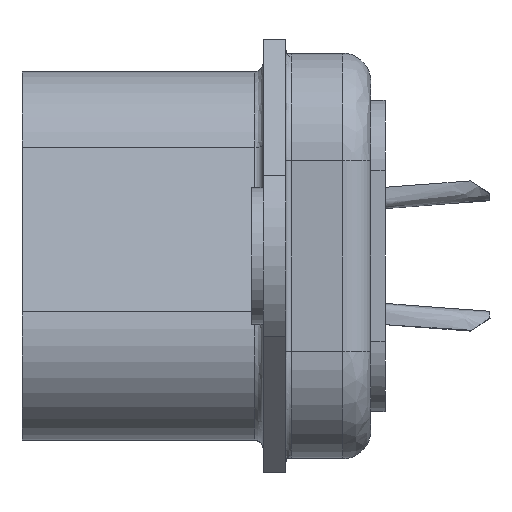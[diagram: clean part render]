
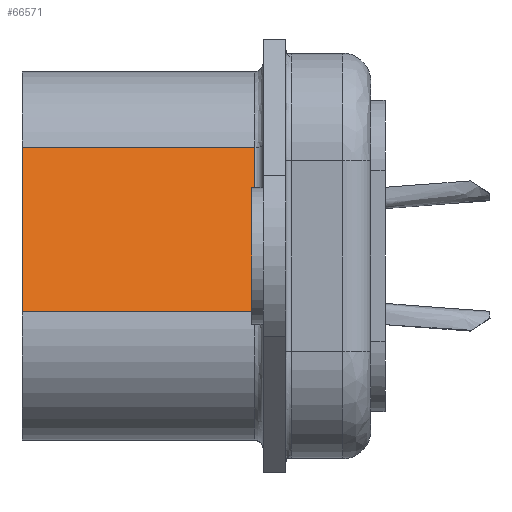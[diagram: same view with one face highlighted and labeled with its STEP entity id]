
A CAD part, left-side view. The second image highlights one B-rep face of the part: STEP entity #66571.
In plain terms, the highlighted planar face has unit normal (-0.966, 0, 0.259).
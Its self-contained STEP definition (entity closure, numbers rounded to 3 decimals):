
#2856 = LINE ( 'NONE', #44540, #20154 ) ;
#3652 = ORIENTED_EDGE ( 'NONE', *, *, #50018, .F. ) ;
#4428 = EDGE_CURVE ( 'NONE', #15778, #22802, #24314, .T. ) ;
#7081 = LINE ( 'NONE', #43646, #40009 ) ;
#8309 = DIRECTION ( 'NONE',  ( 0., 1., 0. ) ) ;
#9514 = AXIS2_PLACEMENT_3D ( 'NONE', #38996, #64641, #60184 ) ;
#13373 = CARTESIAN_POINT ( 'NONE',  ( -16.873, 0.55, 3.832 ) ) ;
#13770 = VECTOR ( 'NONE', #56866, 1000. ) ;
#15778 = VERTEX_POINT ( 'NONE', #31547 ) ;
#20154 = VECTOR ( 'NONE', #8309, 1000. ) ;
#21172 = ORIENTED_EDGE ( 'NONE', *, *, #4428, .F. ) ;
#22770 = CARTESIAN_POINT ( 'NONE',  ( -16.873, 0.85, 3.832 ) ) ;
#22802 = VERTEX_POINT ( 'NONE', #22770 ) ;
#24314 = LINE ( 'NONE', #13373, #46062 ) ;
#26841 = VERTEX_POINT ( 'NONE', #34861 ) ;
#31547 = CARTESIAN_POINT ( 'NONE',  ( -16.873, 9.05, 3.832 ) ) ;
#33058 = ORIENTED_EDGE ( 'NONE', *, *, #62452, .F. ) ;
#34861 = CARTESIAN_POINT ( 'NONE',  ( -18.427, 9.05, -1.968 ) ) ;
#34910 = DIRECTION ( 'NONE',  ( 0., -1., 0. ) ) ;
#35924 = CARTESIAN_POINT ( 'NONE',  ( -18.427, 0.85, -1.968 ) ) ;
#36012 = CARTESIAN_POINT ( 'NONE',  ( -18.427, 0.85, -1.968 ) ) ;
#38996 = CARTESIAN_POINT ( 'NONE',  ( -18.427, 0.55, -1.968 ) ) ;
#39332 = PLANE ( 'NONE',  #9514 ) ;
#40009 = VECTOR ( 'NONE', #44310, 1000. ) ;
#41130 = LINE ( 'NONE', #36012, #13770 ) ;
#43646 = CARTESIAN_POINT ( 'NONE',  ( -18.427, 9.05, -1.968 ) ) ;
#44310 = DIRECTION ( 'NONE',  ( 0.259, 0., 0.966 ) ) ;
#44540 = CARTESIAN_POINT ( 'NONE',  ( -18.427, 0.55, -1.968 ) ) ;
#46062 = VECTOR ( 'NONE', #34910, 1000. ) ;
#47322 = VERTEX_POINT ( 'NONE', #35924 ) ;
#49500 = EDGE_CURVE ( 'NONE', #47322, #22802, #41130, .T. ) ;
#49934 = ORIENTED_EDGE ( 'NONE', *, *, #49500, .T. ) ;
#50018 = EDGE_CURVE ( 'NONE', #26841, #15778, #7081, .T. ) ;
#51496 = EDGE_LOOP ( 'NONE', ( #33058, #49934, #21172, #3652 ) ) ;
#54381 = FACE_OUTER_BOUND ( 'NONE', #51496, .T. ) ;
#56866 = DIRECTION ( 'NONE',  ( 0.259, 0., 0.966 ) ) ;
#60184 = DIRECTION ( 'NONE',  ( 0.259, 0., 0.966 ) ) ;
#62452 = EDGE_CURVE ( 'NONE', #47322, #26841, #2856, .T. ) ;
#64641 = DIRECTION ( 'NONE',  ( -0.966, 0., 0.259 ) ) ;
#66571 = ADVANCED_FACE ( 'NONE', ( #54381 ), #39332, .T. ) ;
